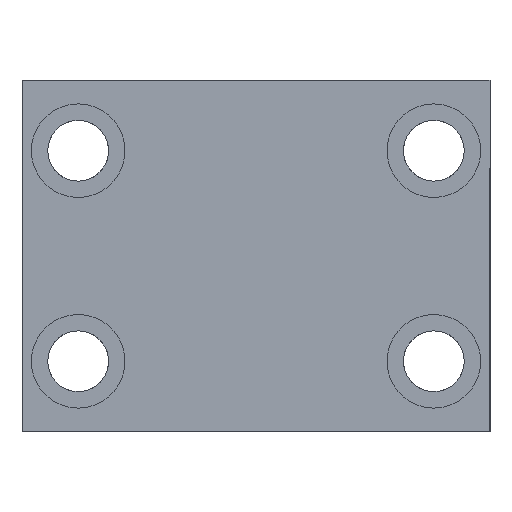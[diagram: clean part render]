
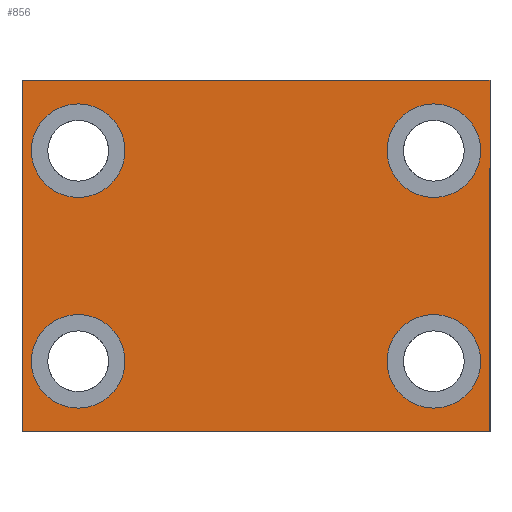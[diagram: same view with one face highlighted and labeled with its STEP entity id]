
A CAD part, front view. The second image highlights one B-rep face of the part: STEP entity #856.
In plain terms, the highlighted planar face has unit normal (0, -1, 0).
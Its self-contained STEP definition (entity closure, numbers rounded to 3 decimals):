
#54 = CIRCLE ( 'NONE', #2680, 10. ) ;
#70 = EDGE_LOOP ( 'NONE', ( #2390, #3053 ) ) ;
#79 = CARTESIAN_POINT ( 'NONE',  ( -38., 0., -32.5 ) ) ;
#92 = VERTEX_POINT ( 'NONE', #887 ) ;
#116 = ORIENTED_EDGE ( 'NONE', *, *, #3193, .F. ) ;
#132 = CARTESIAN_POINT ( 'NONE',  ( 38., 0., 32.5 ) ) ;
#136 = EDGE_CURVE ( 'NONE', #154, #2729, #1529, .T. ) ;
#154 = VERTEX_POINT ( 'NONE', #422 ) ;
#193 = VERTEX_POINT ( 'NONE', #296 ) ;
#243 = CARTESIAN_POINT ( 'NONE',  ( 38., 0., 12.5 ) ) ;
#245 = VERTEX_POINT ( 'NONE', #132 ) ;
#247 = EDGE_LOOP ( 'NONE', ( #2855, #116 ) ) ;
#280 = LINE ( 'NONE', #759, #1749 ) ;
#296 = CARTESIAN_POINT ( 'NONE',  ( -50., 0., -37.5 ) ) ;
#385 = FACE_BOUND ( 'NONE', #247, .T. ) ;
#422 = CARTESIAN_POINT ( 'NONE',  ( -38., 0., 32.5 ) ) ;
#435 = DIRECTION ( 'NONE',  ( 0., 0., -1. ) ) ;
#437 = ORIENTED_EDGE ( 'NONE', *, *, #3262, .F. ) ;
#438 = DIRECTION ( 'NONE',  ( 0., -1., 0. ) ) ;
#440 = DIRECTION ( 'NONE',  ( 0., 0., -1. ) ) ;
#448 = CARTESIAN_POINT ( 'NONE',  ( 38., 0., -22.5 ) ) ;
#458 = DIRECTION ( 'NONE',  ( 0., -1., 0. ) ) ;
#501 = CARTESIAN_POINT ( 'NONE',  ( -38., 0., 22.5 ) ) ;
#535 = VERTEX_POINT ( 'NONE', #2776 ) ;
#635 = DIRECTION ( 'NONE',  ( 0., 0., -1. ) ) ;
#647 = EDGE_CURVE ( 'NONE', #2914, #927, #891, .T. ) ;
#657 = AXIS2_PLACEMENT_3D ( 'NONE', #1746, #1730, #1711 ) ;
#672 = EDGE_LOOP ( 'NONE', ( #767, #2337, #1550, #899 ) ) ;
#741 = CARTESIAN_POINT ( 'NONE',  ( -38., 0., 12.5 ) ) ;
#749 = CARTESIAN_POINT ( 'NONE',  ( 38., 0., -12.5 ) ) ;
#759 = CARTESIAN_POINT ( 'NONE',  ( 50., 0., -37.5 ) ) ;
#767 = ORIENTED_EDGE ( 'NONE', *, *, #2243, .F. ) ;
#795 = AXIS2_PLACEMENT_3D ( 'NONE', #2022, #1941, #1933 ) ;
#798 = DIRECTION ( 'NONE',  ( 0., 0., -1. ) ) ;
#856 = ADVANCED_FACE ( 'NONE', ( #385, #1108, #1289, #2576, #1764 ), #1955, .F. ) ;
#870 = EDGE_CURVE ( 'NONE', #2757, #245, #3117, .T. ) ;
#887 = CARTESIAN_POINT ( 'NONE',  ( 50., 0., -37.5 ) ) ;
#891 = CIRCLE ( 'NONE', #2952, 10. ) ;
#899 = ORIENTED_EDGE ( 'NONE', *, *, #3135, .F. ) ;
#905 = CARTESIAN_POINT ( 'NONE',  ( 38., 0., 22.5 ) ) ;
#927 = VERTEX_POINT ( 'NONE', #1783 ) ;
#975 = EDGE_LOOP ( 'NONE', ( #3260, #3348 ) ) ;
#993 = AXIS2_PLACEMENT_3D ( 'NONE', #1880, #1870, #1857 ) ;
#1070 = CIRCLE ( 'NONE', #657, 10. ) ;
#1108 = FACE_BOUND ( 'NONE', #70, .T. ) ;
#1187 = DIRECTION ( 'NONE',  ( 0., 0., -1. ) ) ;
#1201 = DIRECTION ( 'NONE',  ( 0., -1., 0. ) ) ;
#1232 = CARTESIAN_POINT ( 'NONE',  ( -38., 0., 22.5 ) ) ;
#1254 = AXIS2_PLACEMENT_3D ( 'NONE', #3220, #3206, #3056 ) ;
#1289 = FACE_BOUND ( 'NONE', #975, .T. ) ;
#1349 = CARTESIAN_POINT ( 'NONE',  ( -38., 0., -12.5 ) ) ;
#1487 = VECTOR ( 'NONE', #3460, 1000. ) ;
#1509 = EDGE_CURVE ( 'NONE', #927, #2914, #3007, .T. ) ;
#1529 = CIRCLE ( 'NONE', #1545, 10. ) ;
#1545 = AXIS2_PLACEMENT_3D ( 'NONE', #501, #458, #440 ) ;
#1550 = ORIENTED_EDGE ( 'NONE', *, *, #1812, .F. ) ;
#1587 = AXIS2_PLACEMENT_3D ( 'NONE', #1232, #1201, #1187 ) ;
#1636 = CIRCLE ( 'NONE', #1587, 10. ) ;
#1711 = DIRECTION ( 'NONE',  ( 0., 0., -1. ) ) ;
#1730 = DIRECTION ( 'NONE',  ( 0., -1., 0. ) ) ;
#1741 = EDGE_CURVE ( 'NONE', #245, #2757, #54, .T. ) ;
#1746 = CARTESIAN_POINT ( 'NONE',  ( -38., 0., -22.5 ) ) ;
#1749 = VECTOR ( 'NONE', #798, 1000. ) ;
#1764 = FACE_OUTER_BOUND ( 'NONE', #672, .T. ) ;
#1783 = CARTESIAN_POINT ( 'NONE',  ( 38., 0., -32.5 ) ) ;
#1811 = CARTESIAN_POINT ( 'NONE',  ( -50., 0., -37.5 ) ) ;
#1812 = EDGE_CURVE ( 'NONE', #193, #535, #2799, .T. ) ;
#1857 = DIRECTION ( 'NONE',  ( 0., 0., -1. ) ) ;
#1870 = DIRECTION ( 'NONE',  ( 0., -1., 0. ) ) ;
#1880 = CARTESIAN_POINT ( 'NONE',  ( 38., 0., 22.5 ) ) ;
#1933 = DIRECTION ( 'NONE',  ( 0., 0., 1. ) ) ;
#1941 = DIRECTION ( 'NONE',  ( 0., 1., 0. ) ) ;
#1955 = PLANE ( 'NONE',  #795 ) ;
#2022 = CARTESIAN_POINT ( 'NONE',  ( 0., 0., 0. ) ) ;
#2123 = EDGE_CURVE ( 'NONE', #3408, #2628, #2179, .T. ) ;
#2160 = DIRECTION ( 'NONE',  ( -1., 0., 0. ) ) ;
#2169 = DIRECTION ( 'NONE',  ( 0., 0., 1. ) ) ;
#2179 = CIRCLE ( 'NONE', #1254, 10. ) ;
#2200 = CARTESIAN_POINT ( 'NONE',  ( -50., 0., -37.5 ) ) ;
#2243 = EDGE_CURVE ( 'NONE', #2355, #92, #280, .T. ) ;
#2289 = DIRECTION ( 'NONE',  ( 0., -1., 0. ) ) ;
#2337 = ORIENTED_EDGE ( 'NONE', *, *, #2341, .F. ) ;
#2341 = EDGE_CURVE ( 'NONE', #535, #2355, #2920, .T. ) ;
#2355 = VERTEX_POINT ( 'NONE', #3247 ) ;
#2390 = ORIENTED_EDGE ( 'NONE', *, *, #1509, .F. ) ;
#2476 = DIRECTION ( 'NONE',  ( 0., 0., -1. ) ) ;
#2482 = DIRECTION ( 'NONE',  ( 0., -1., 0. ) ) ;
#2485 = CARTESIAN_POINT ( 'NONE',  ( 38., 0., -22.5 ) ) ;
#2576 = FACE_BOUND ( 'NONE', #3327, .T. ) ;
#2628 = VERTEX_POINT ( 'NONE', #1349 ) ;
#2633 = AXIS2_PLACEMENT_3D ( 'NONE', #448, #438, #435 ) ;
#2680 = AXIS2_PLACEMENT_3D ( 'NONE', #905, #2289, #635 ) ;
#2729 = VERTEX_POINT ( 'NONE', #741 ) ;
#2757 = VERTEX_POINT ( 'NONE', #243 ) ;
#2776 = CARTESIAN_POINT ( 'NONE',  ( -50., 0., 37.5 ) ) ;
#2799 = LINE ( 'NONE', #1811, #3356 ) ;
#2855 = ORIENTED_EDGE ( 'NONE', *, *, #2123, .F. ) ;
#2914 = VERTEX_POINT ( 'NONE', #749 ) ;
#2920 = LINE ( 'NONE', #3468, #1487 ) ;
#2952 = AXIS2_PLACEMENT_3D ( 'NONE', #2485, #2482, #2476 ) ;
#3007 = CIRCLE ( 'NONE', #2633, 10. ) ;
#3053 = ORIENTED_EDGE ( 'NONE', *, *, #647, .F. ) ;
#3056 = DIRECTION ( 'NONE',  ( 0., 0., -1. ) ) ;
#3117 = CIRCLE ( 'NONE', #993, 10. ) ;
#3135 = EDGE_CURVE ( 'NONE', #92, #193, #3339, .T. ) ;
#3193 = EDGE_CURVE ( 'NONE', #2628, #3408, #1070, .T. ) ;
#3206 = DIRECTION ( 'NONE',  ( 0., -1., 0. ) ) ;
#3220 = CARTESIAN_POINT ( 'NONE',  ( -38., 0., -22.5 ) ) ;
#3245 = VECTOR ( 'NONE', #2160, 1000. ) ;
#3247 = CARTESIAN_POINT ( 'NONE',  ( 50., 0., 37.5 ) ) ;
#3260 = ORIENTED_EDGE ( 'NONE', *, *, #870, .F. ) ;
#3262 = EDGE_CURVE ( 'NONE', #2729, #154, #1636, .T. ) ;
#3327 = EDGE_LOOP ( 'NONE', ( #437, #3350 ) ) ;
#3339 = LINE ( 'NONE', #2200, #3245 ) ;
#3348 = ORIENTED_EDGE ( 'NONE', *, *, #1741, .F. ) ;
#3350 = ORIENTED_EDGE ( 'NONE', *, *, #136, .F. ) ;
#3356 = VECTOR ( 'NONE', #2169, 1000. ) ;
#3408 = VERTEX_POINT ( 'NONE', #79 ) ;
#3460 = DIRECTION ( 'NONE',  ( 1., 0., 0. ) ) ;
#3468 = CARTESIAN_POINT ( 'NONE',  ( -50., 0., 37.5 ) ) ;
